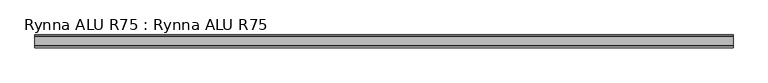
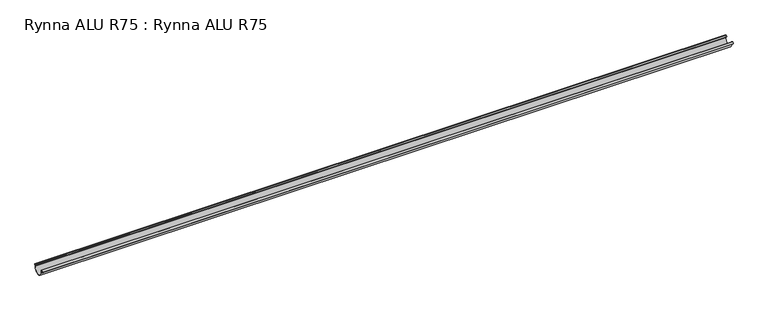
"""IFC4 building model written with IfcOpenShell, lengths in millimetres: proxy geometry, Rynna ALU R75 : Rynna ALU R75."""

from ifc_helpers import new_model, si_unit, point, frame, frame_2d, origin, place, context, project, spatial, polyline, circle_curve, trimmed, segment, composite_curve, outline, extrude, source, transform, mapped, element, save


def rynna_alu_r75_rynna_alu_r75_09d3fe56(model_context):
    return source(origin(), model_context, "Body", "SweptSolid", [
        extrude(outline(composite_curve([segment(polyline([(-77.0000001, -18.8928858), (-77.0000001, -9.298839)]), True, "CONTINUOUS"), segment(trimmed(circle_curve(frame_2d((-83.065591, -8.6518374)), 6.1000004), [point((-77.0000001, -9.298839))], [point((-86.1676128, -13.9042145))], True, "CARTESIAN"), True, "CONTINUOUS"), segment(polyline([(-86.1676128, -13.9042145), (-86.1676128, -15.0383413)]), True, "CONTINUOUS"), segment(trimmed(circle_curve(frame_2d((-83.0655965, -8.651839)), 7.0999941), [point((-86.1676128, -15.0383413))], [point((-76.0000118, -9.3500002))], False, "CARTESIAN"), True, "CONTINUOUS"), segment(polyline([(-76.0000118, -9.3500002), (-76.0000118, -18.8754102)]), True, "CONTINUOUS"), segment(trimmed(circle_curve(frame_2d((-39.5000101, -18.8754102)), 36.5000017), [point((-76.0000118, -18.8754102))], [point((-3.0000084, -18.8754102))], True, "CARTESIAN"), True, "CONTINUOUS"), segment(polyline([(-3.0000084, -18.8754102), (-1.1093439, -0.9821469)]), True, "CONTINUOUS"), segment(trimmed(circle_curve(frame_2d((-0.8393369, -17.5562346)), 16.5762868), [point((-1.1093439, -0.9821469))], [point((-4.8989693, -1.4847483))], True, "CARTESIAN"), True, "CONTINUOUS"), segment(polyline([(-4.8989693, -1.4847483), (-10.02274, -6.608519), (-10.7298468, -5.9014122), (-5.4142136, -0.585779)]), True, "CONTINUOUS"), segment(trimmed(circle_curve(frame_2d((-0.8393369, -17.5562346)), 17.5762868), [point((-5.4142136, -0.585779))], [point((0.0, 0.0))], False, "CARTESIAN"), True, "CONTINUOUS"), segment(polyline([(0.0, 0.0), (-2.0, -18.8928858)]), True, "CONTINUOUS"), segment(trimmed(circle_curve(frame_2d((-39.5, -18.8928858)), 37.5), [point((-2.0, -18.8928858))], [point((-77.0000001, -18.8928858))], False, "CARTESIAN"), True, "CONTINUOUS")], self_intersect=False)), frame((-2427.5, 0.0, 0.0), z_axis=(1.0, 0.0, 0.0), x_axis=(0.0, 1.0, 0.0)), (0.0, 0.0, 1.0), 4855.0),
    ])


if __name__ == "__main__":
    model = new_model("IFC4")
    model_context = context("Model", 3, world=origin())
    ifc_project = project(units=[si_unit("LENGTHUNIT", "METRE", prefix="MILLI")], contexts=[model_context])
    site = spatial("IfcSite", under=ifc_project)
    building = spatial("IfcBuilding", under=site)
    placement = place(None, origin())
    rynna_alu_r75_rynna_alu_r75_shape = rynna_alu_r75_rynna_alu_r75_09d3fe56(model_context)
    element("IfcBuildingElementProxy", 1, Name="Rynna ALU R75 : Rynna ALU R75", ObjectType="Rynna ALU R75 : Rynna ALU R75", at=placement, inside=building, context=model_context, shape_type="MappedRepresentation", body=[
        mapped(rynna_alu_r75_rynna_alu_r75_shape, transform((0.0, 0.0, 0.0), x_axis=(1.0, 0.0, 0.0), y_axis=(0.0, 1.0, 0.0), z_axis=(0.0, 0.0, 1.0))),
    ])
    save(model, "model.ifc")
